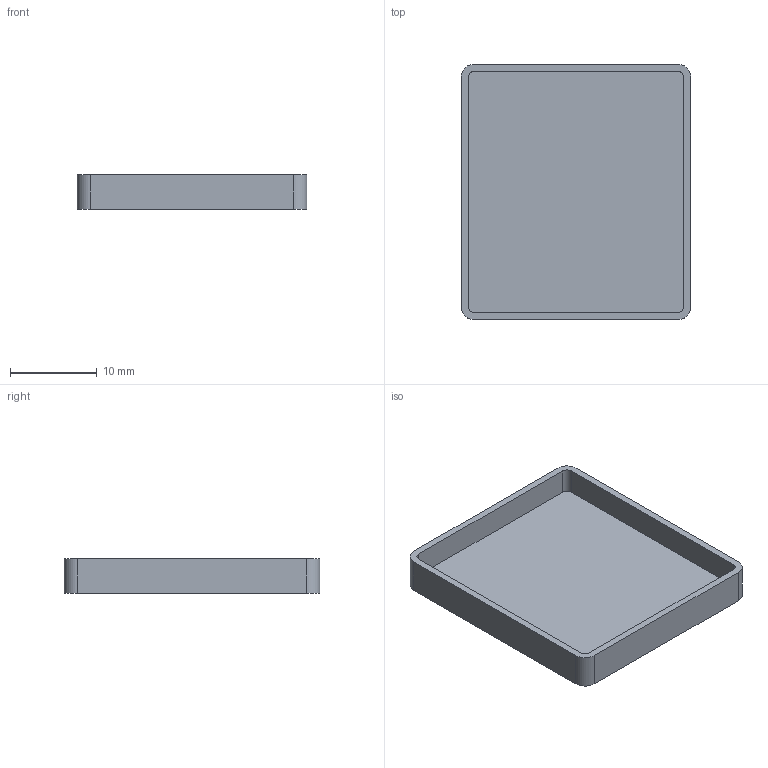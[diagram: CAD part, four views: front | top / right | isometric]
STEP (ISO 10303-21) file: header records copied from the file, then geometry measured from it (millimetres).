
FILE_DESCRIPTION(('Open CASCADE Model'),'2;1');
FILE_NAME('Open CASCADE Shape Model','2026-10-27T13:08:00',('Author'),( 'Open CASCADE'),'Open CASCADE STEP processor 7.9','Open CASCADE 7.9' ,'Unknown');
FILE_SCHEMA(('AUTOMOTIVE_DESIGN { 1 0 10303 214 1 1 1 1 }'));
Length unit declared in the file: millimetre
Products named in the file (1): Open CASCADE STEP translator 7.9 3
Bounding box: 26.4 x 29.4 x 4 mm (x, y, z)
Volume: 1029.9 mm3; surface area: 2296.6 mm2
Topology: 1 solids, 1 shells, 19 faces, 48 edges, 32 vertices
Faces by surface type: plane 11, cylinder 8
Entity records: 1222 total; most frequent: CARTESIAN_POINT 240, DIRECTION 186, LINE 104, VECTOR 104, ORIENTED_EDGE 96, PCURVE 96, DEFINITIONAL_REPRESENTATION 96, EDGE_CURVE 48
